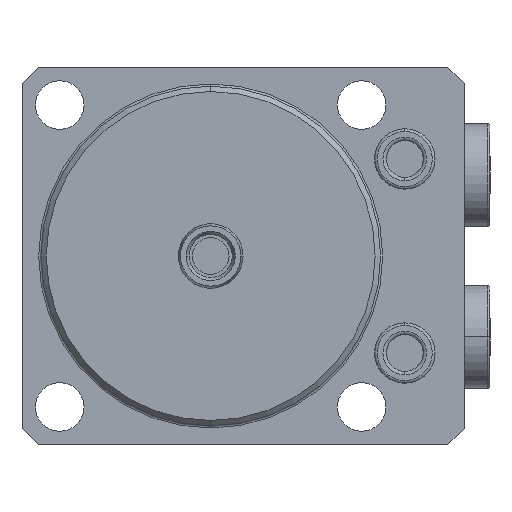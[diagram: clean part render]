
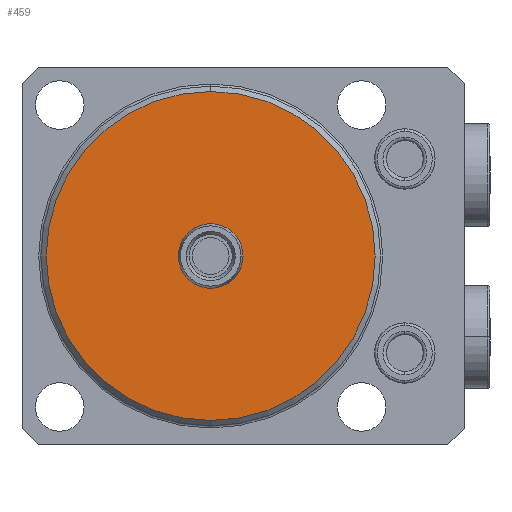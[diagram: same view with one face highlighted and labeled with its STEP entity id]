
A CAD part, front view. The second image highlights one B-rep face of the part: STEP entity #459.
In plain terms, the highlighted planar face has unit normal (0, -1, 0) as drawn and (0, 1, 0) by its records, which use the part's own axes.
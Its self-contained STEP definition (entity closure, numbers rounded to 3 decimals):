
#198=PLANE('',#4791);
#308=FACE_BOUND('',#1103,.F.);
#309=FACE_BOUND('',#1104,.F.);
#459=ADVANCED_FACE('',(#308,#309),#198,.T.);
#1103=EDGE_LOOP('',(#1958,#1959));
#1104=EDGE_LOOP('',(#1960,#1961));
#1385=CIRCLE('',#4675,6.);
#1440=CIRCLE('',#4753,30.5);
#1460=CIRCLE('',#4789,6.);
#1461=CIRCLE('',#4790,30.5);
#1958=ORIENTED_EDGE('',*,*,#3604,.T.);
#1959=ORIENTED_EDGE('',*,*,#3422,.T.);
#1960=ORIENTED_EDGE('',*,*,#3605,.T.);
#1961=ORIENTED_EDGE('',*,*,#3510,.T.);
#2996=VERTEX_POINT('',#6787);
#2997=VERTEX_POINT('',#6788);
#3068=VERTEX_POINT('',#6975);
#3069=VERTEX_POINT('',#6976);
#3422=EDGE_CURVE('',#2996,#2997,#1385,.T.);
#3510=EDGE_CURVE('',#3068,#3069,#1440,.T.);
#3604=EDGE_CURVE('',#2997,#2996,#1460,.T.);
#3605=EDGE_CURVE('',#3069,#3068,#1461,.T.);
#4675=AXIS2_PLACEMENT_3D('',#6786,#5317,#5318);
#4753=AXIS2_PLACEMENT_3D('',#6974,#5505,#5506);
#4789=AXIS2_PLACEMENT_3D('',#7240,#5627,#5628);
#4790=AXIS2_PLACEMENT_3D('',#7241,#5629,#5630);
#4791=AXIS2_PLACEMENT_3D('',#7242,#5631,#5632);
#5317=DIRECTION('',(0.,1.,0.));
#5318=DIRECTION('',(0.,0.,1.));
#5505=DIRECTION('',(0.,-1.,0.));
#5506=DIRECTION('',(0.,0.,1.));
#5627=DIRECTION('',(0.,1.,0.));
#5628=DIRECTION('',(0.,0.,1.));
#5629=DIRECTION('',(0.,-1.,0.));
#5630=DIRECTION('',(0.,0.,1.));
#5631=DIRECTION('',(0.,1.,0.));
#5632=DIRECTION('',(0.,0.,1.));
#6786=CARTESIAN_POINT('',(0.,-47.,0.));
#6787=CARTESIAN_POINT('',(0.,-47.,-6.));
#6788=CARTESIAN_POINT('',(0.,-47.,6.));
#6974=CARTESIAN_POINT('',(0.,-47.,0.));
#6975=CARTESIAN_POINT('',(0.,-47.,-30.5));
#6976=CARTESIAN_POINT('',(0.,-47.,30.5));
#7240=CARTESIAN_POINT('',(0.,-47.,0.));
#7241=CARTESIAN_POINT('',(0.,-47.,0.));
#7242=CARTESIAN_POINT('',(0.,-47.,0.));
